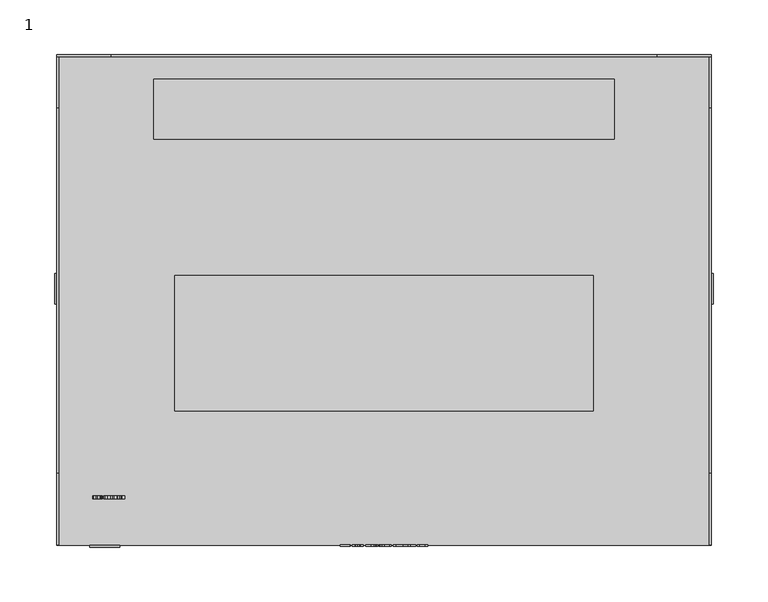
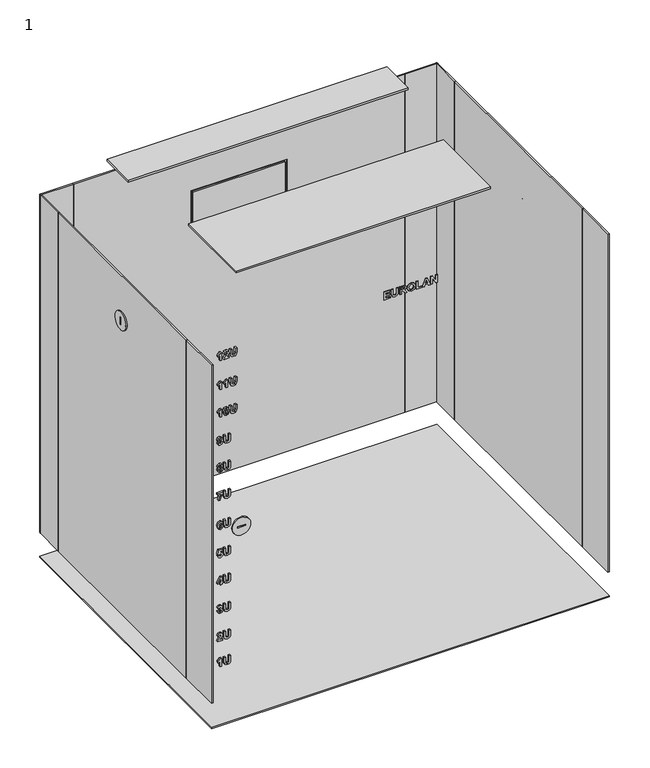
"""IFC4 building model written with IfcOpenShell, lengths in millimetres: proxy geometry, 1 : 12U 450мм металлическая дверь."""

from ifc_helpers import new_model, si_unit, point, frame, frame_2d, origin, origin_with_axes, place, context, project, spatial, polyline, circle_curve, trimmed, segment, composite_curve, outline, extrude, source, transform, mapped, element, save


def proxy_1_ad02ab2c(model_context):
    return source(origin(), model_context, "Body", "SweptSolid", [
        extrude(outline(polyline([(593.0, -40.3245382), (593.0, -30.9964522), (595.1376864, -30.9964522), (595.1376864, -37.9925167), (598.2470483, -37.9925167), (598.2470483, -31.5794576), (600.3847347, -31.5794576), (600.3847347, -37.9925167), (603.1054264, -37.9925167), (603.1054264, -31.1907874), (605.2431128, -31.1907874), (605.2431128, -40.3245382), (593.0, -40.3245382)])), frame((0.0, -226.0, 0.0), z_axis=(0.0, 1.0, 0.0), x_axis=(0.0, 0.0, 1.0)), (0.0, 0.0, 1.0), 1.0),
        extrude(outline(polyline([(605.2431128, -29.053101), (598.7207402, -29.053101), (595.6174512, -28.8071456), (594.2601418, -28.1026808), (593.2095176, -26.6482039), (592.8056649, -23.9487675), (593.1761162, -21.5575346), (594.173602, -20.0954664), (595.7085458, -19.3454543), (598.8209443, -19.1420097), (605.2431128, -19.1420097), (605.2431128, -21.4740312), (598.4960402, -21.4740312), (596.4236383, -21.5924541), (595.3714958, -22.2923642), (594.9433512, -24.0216432), (595.3973059, -25.7979877), (596.5982363, -26.6208755), (598.6387551, -26.7210795), (605.2431128, -26.7210795), (605.2431128, -29.053101)])), frame((0.0, -226.0, 0.0), z_axis=(0.0, 1.0, 0.0), x_axis=(0.0, 0.0, 1.0)), (0.0, 0.0, 1.0), 1.0),
        extrude(outline(polyline([(593.0, -16.8099882), (593.0, -14.4779667), (598.0527132, -13.9435451), (597.9251808, -12.6120459), (597.4560437, -11.8164865), (595.7966039, -10.4242575), (593.0, -8.6509495), (593.0, -5.9272213), (595.3745323, -7.424209), (597.3512849, -8.7238252), (598.3715443, -9.9475291), (599.5071902, -7.6625732), (601.7936644, -6.8988969), (603.7339791, -7.4272455), (604.9121358, -8.8361752), (605.2431128, -11.6601074), (605.2431128, -16.8099882), (593.0, -16.8099882)]), holes=[polyline([(600.1903996, -14.4779667), (603.1054264, -14.4779667), (603.1054264, -12.4495939), (603.0659521, -10.5548264), (602.6150339, -9.5770778), (601.6782779, -9.2309184), (600.817434, -9.4935744), (600.3315962, -10.2223312), (600.1903996, -12.5558709), (600.1903996, -14.4779667)])]), frame((0.0, -226.0, 0.0), z_axis=(0.0, 1.0, 0.0), x_axis=(0.0, 0.0, 1.0)), (0.0, 0.0, 1.0), 1.0),
        extrude(outline(polyline([(599.0456442, -4.9555457), (594.4681411, -3.3735363), (592.8056649, 0.8896905), (594.4757323, 5.1225524), (599.106374, 6.7045618), (603.7628257, 5.1104065), (605.4374479, 0.8593256), (604.9546466, -1.7338337), (603.8539203, -3.2869964), (602.1792981, -4.4059416), (599.0456442, -4.9555457)]), holes=[polyline([(599.1306659, -2.6235242), (602.2612832, -1.6579215), (603.2997616, 0.886654), (602.2734292, 3.4190836), (599.1640672, 4.3725403), (595.9985302, 3.3932735), (594.9433512, 0.886654), (596.0061214, -1.6321114), (599.1306659, -2.6235242)])]), frame((0.0, -226.0, 0.0), z_axis=(0.0, 1.0, 0.0), x_axis=(0.0, 0.0, 1.0)), (0.0, 0.0, 1.0), 1.0),
        extrude(outline(polyline([(593.0, 8.647913), (593.0, 17.1986585), (595.1376864, 17.1986585), (595.1376864, 10.9799345), (605.2431128, 10.9799345), (605.2431128, 8.647913), (593.0, 8.647913)])), frame((0.0, -226.0, 0.0), z_axis=(0.0, 1.0, 0.0), x_axis=(0.0, 0.0, 1.0)), (0.0, 0.0, 1.0), 1.0),
        extrude(outline(polyline([(593.0, 29.2474361), (605.2431128, 24.7352175), (605.2431128, 22.2513717), (593.0, 17.7816638), (593.0, 20.2655096), (595.7206917, 21.2128934), (595.7206917, 25.837462), (593.0, 26.7969917), (593.0, 29.2474361)]), holes=[polyline([(597.8583781, 25.0904864), (597.8583781, 21.959869), (602.3280859, 23.51455), (597.8583781, 25.0904864)])]), frame((0.0, -226.0, 0.0), z_axis=(0.0, 1.0, 0.0), x_axis=(0.0, 0.0, 1.0)), (0.0, 0.0, 1.0), 1.0),
        extrude(outline(polyline([(593.0, 30.4134469), (593.0, 32.7454684), (601.1195644, 32.7454684), (593.0, 37.8042546), (593.0, 40.3245382), (605.2431128, 40.3245382), (605.2431128, 37.9925167), (597.002089, 37.9925167), (605.2431128, 32.8578184), (605.2431128, 30.4134469), (593.0, 30.4134469)])), frame((0.0, -226.0, 0.0), z_axis=(0.0, 1.0, 0.0), x_axis=(0.0, 0.0, 1.0)), (0.0, 0.0, 1.0), 1.0),
        extrude(outline(composite_curve([segment(trimmed(circle_curve(frame_2d((9.997621, 508.4611412)), 14.0), [point((-4.002379, 508.4611412))], [point((23.997621, 508.4611412))], False, "CARTESIAN"), True, "CONTINUOUS"), segment(trimmed(circle_curve(frame_2d((9.997621, 508.4611412)), 14.0), [point((23.997621, 508.4611412))], [point((-4.002379, 508.4611412))], False, "CARTESIAN"), True, "CONTINUOUS")], self_intersect=False), holes=[polyline([(11.0, 514.5), (9.0, 514.5), (9.0, 502.5), (11.0, 502.5), (11.0, 514.5)])]), frame((-302.0, 0.0, 0.0), z_axis=(1.0, 0.0, 0.0), x_axis=(0.0, 1.0, 0.0)), (0.0, 0.0, 1.0), 2.0),
        extrude(outline(composite_curve([segment(trimmed(circle_curve(frame_2d((9.997621, 508.4611412)), 14.0), [point((-4.002379, 508.4611412))], [point((23.997621, 508.4611412))], False, "CARTESIAN"), True, "CONTINUOUS"), segment(trimmed(circle_curve(frame_2d((9.997621, 508.4611412)), 14.0), [point((23.997621, 508.4611412))], [point((-4.002379, 508.4611412))], False, "CARTESIAN"), True, "CONTINUOUS")], self_intersect=False), holes=[polyline([(11.0, 514.5), (9.0, 514.5), (9.0, 502.5), (11.0, 502.5), (11.0, 514.5)])]), frame((300.0, 0.0, 0.0), z_axis=(1.0, 0.0, 0.0), x_axis=(0.0, 1.0, 0.0)), (0.0, 0.0, 1.0), 2.0),
        extrude(outline(composite_curve([segment(trimmed(circle_curve(frame_2d((308.5, -256.0)), 13.7647373), [point((308.5, -242.2352627))], [point((308.5, -269.7647373))], False, "CARTESIAN"), True, "CONTINUOUS"), segment(trimmed(circle_curve(frame_2d((308.5, -256.0)), 13.7647373), [point((308.5, -269.7647373))], [point((308.5, -242.2352627))], False, "CARTESIAN"), True, "CONTINUOUS")], self_intersect=False), holes=[polyline([(309.5, -250.0), (307.5, -250.0), (307.5, -262.0), (309.5, -262.0), (309.5, -250.0)])]), frame((0.0, -227.0, 0.0), z_axis=(0.0, 1.0, 0.0), x_axis=(0.0, 0.0, 1.0)), (0.0, 0.0, 1.0), 2.0),
        extrude(outline(polyline([(300.0, 225.0), (300.0, -225.0), (-300.0, -225.0), (-300.0, 225.0), (300.0, 225.0)])), origin_with_axes(), (0.0, 0.0, 1.0), 2.0),
        extrude(outline(polyline([(211.0, 202.5), (211.0, 147.5), (-211.0, 147.5), (-211.0, 202.5), (211.0, 202.5)])), frame((0.0, 0.0, 613.9795778), z_axis=(0.0, 0.0, 1.0), x_axis=(1.0, 0.0, 0.0)), (0.0, 0.0, 1.0), 3.0204222),
        extrude(outline(polyline([(192.0, 22.0), (192.0, -102.0), (-192.0, -102.0), (-192.0, 22.0), (192.0, 22.0)])), frame((0.0, 0.0, 613.9795778), z_axis=(0.0, 0.0, 1.0), x_axis=(1.0, 0.0, 0.0)), (0.0, 0.0, 1.0), 3.0204222),
        extrude(outline(polyline([(-69.5, 225.0), (69.5, 225.0), (69.5, 223.0), (-69.5, 223.0), (-69.5, 225.0)])), frame((0.0, 0.0, 454.0), z_axis=(0.0, 0.0, 1.0), x_axis=(1.0, 0.0, 0.0)), (0.0, 0.0, 1.0), 49.0),
        extrude(outline(polyline([(579.0, -250.0), (40.0, -250.0), (40.0, 250.0), (579.0, 250.0), (579.0, -250.0)]), holes=[polyline([(506.0, -72.5), (506.0, 72.5), (451.0, 72.5), (451.0, -72.5), (506.0, -72.5)])]), frame((0.0, 223.0, 0.0), z_axis=(0.0, 1.0, 0.0), x_axis=(0.0, 0.0, 1.0)), (0.0, 0.0, 1.0), 2.0),
        extrude(outline(polyline([(-300.0, 225.0), (-250.0, 225.0), (-250.0, 223.0), (-300.0, 223.0), (-300.0, 225.0)])), frame((0.0, 0.0, 40.0), z_axis=(0.0, 0.0, 1.0), x_axis=(1.0, 0.0, 0.0)), (0.0, 0.0, 1.0), 539.0),
        extrude(outline(polyline([(250.0, 225.0), (300.0, 225.0), (300.0, 223.0), (250.0, 223.0), (250.0, 225.0)])), frame((0.0, 0.0, 40.0), z_axis=(0.0, 0.0, 1.0), x_axis=(1.0, 0.0, 0.0)), (0.0, 0.0, 1.0), 539.0),
        extrude(outline(polyline([(-298.0, 175.8155315), (-298.0, -158.7095641), (-300.0, -158.7095641), (-300.0, 175.8155315), (-298.0, 175.8155315)])), frame((0.0, 0.0, 40.0), z_axis=(0.0, 0.0, 1.0), x_axis=(1.0, 0.0, 0.0)), (0.0, 0.0, 1.0), 539.0),
        extrude(outline(polyline([(-298.0, -158.7095641), (-298.0, -225.0), (-300.0, -225.0), (-300.0, -158.7095641), (-298.0, -158.7095641)])), frame((0.0, 0.0, 40.0), z_axis=(0.0, 0.0, 1.0), x_axis=(1.0, 0.0, 0.0)), (0.0, 0.0, 1.0), 539.0),
        extrude(outline(polyline([(-298.0, 225.0), (-298.0, 175.8155315), (-300.0, 175.8155315), (-300.0, 225.0), (-298.0, 225.0)])), frame((0.0, 0.0, 40.0), z_axis=(0.0, 0.0, 1.0), x_axis=(1.0, 0.0, 0.0)), (0.0, 0.0, 1.0), 539.0),
        extrude(outline(polyline([(300.0, 175.8155315), (300.0, -158.7095641), (298.0, -158.7095641), (298.0, 175.8155315), (300.0, 175.8155315)])), frame((0.0, 0.0, 40.0), z_axis=(0.0, 0.0, 1.0), x_axis=(1.0, 0.0, 0.0)), (0.0, 0.0, 1.0), 539.0),
        extrude(outline(polyline([(300.0, 225.0), (300.0, 175.8155315), (298.0, 175.8155315), (298.0, 225.0), (300.0, 225.0)])), frame((0.0, 0.0, 40.0), z_axis=(0.0, 0.0, 1.0), x_axis=(1.0, 0.0, 0.0)), (0.0, 0.0, 1.0), 539.0),
        extrude(outline(polyline([(300.0, -158.7095641), (300.0, -225.0), (298.0, -225.0), (298.0, -158.7095641), (300.0, -158.7095641)])), frame((0.0, 0.0, 40.0), z_axis=(0.0, 0.0, 1.0), x_axis=(1.0, 0.0, 0.0)), (0.0, 0.0, 1.0), 539.0),
        extrude(outline(polyline([(547.6333267, -260.6030776), (559.8764395, -260.6030776), (559.8764395, -262.4614073), (557.9103146, -263.9037383), (556.7670775, -265.850126), (554.435056, -265.850126), (556.3844802, -262.9350991), (547.6333267, -262.9350991), (547.6333267, -260.6030776)])), frame((0.0, -182.6777479, 0.0), z_axis=(0.0, 1.0, 0.0), x_axis=(0.0, 0.0, 1.0)), (0.0, 0.0, 1.0), 3.0),
        extrude(outline(polyline([(549.9653481, -249.3316405), (550.6030103, -253.2395983), (551.9299548, -251.9080991), (553.4603439, -250.4581769), (554.9937695, -249.6018877), (556.5363045, -249.3316405), (558.918428, -250.3184985), (559.8764395, -253.0331173), (559.0216686, -255.6596779), (556.202291, -256.9107103), (555.989737, -254.5786888), (557.3333822, -254.1292888), (557.7387531, -253.0847375), (557.3273092, -252.0417045), (556.1476343, -251.6636619), (554.7447776, -252.1130619), (552.7892804, -253.9167348), (549.9213191, -256.3611063), (547.6333267, -257.1050454), (547.6333267, -249.3316405), (549.9653481, -249.3316405)])), frame((0.0, -182.6777479, 0.0), z_axis=(0.0, 1.0, 0.0), x_axis=(0.0, 0.0, 1.0)), (0.0, 0.0, 1.0), 3.0),
        extrude(outline(polyline([(559.8764395, -247.3882892), (553.3540669, -247.3882892), (550.2507779, -247.1423338), (548.8934685, -246.437869), (547.8428442, -244.9833921), (547.4389915, -242.2839557), (547.8094429, -239.8927228), (548.8069286, -238.4306546), (550.3418725, -237.6806425), (553.4542709, -237.4771979), (559.8764395, -237.4771979), (559.8764395, -239.8092194), (553.1293669, -239.8092194), (551.056965, -239.9276424), (550.0048225, -240.6275524), (549.5766779, -242.3568314), (550.0306326, -244.1331759), (551.2315629, -244.9560637), (553.2720817, -245.0562677), (559.8764395, -245.0562677), (559.8764395, -247.3882892)])), frame((0.0, -182.6777479, 0.0), z_axis=(0.0, 1.0, 0.0), x_axis=(0.0, 0.0, 1.0)), (0.0, 0.0, 1.0), 3.0),
        extrude(outline(polyline([(501.1786301, -260.6030776), (513.4217429, -260.6030776), (513.4217429, -262.4614073), (511.455618, -263.9037383), (510.3123809, -265.850126), (507.9803594, -265.850126), (509.9297836, -262.9350991), (501.1786301, -262.9350991), (501.1786301, -260.6030776)])), frame((0.0, -182.6777479, 0.0), z_axis=(0.0, 1.0, 0.0), x_axis=(0.0, 0.0, 1.0)), (0.0, 0.0, 1.0), 3.0),
        extrude(outline(polyline([(501.1786301, -251.2749917), (513.4217429, -251.2749917), (513.4217429, -253.1333213), (511.455618, -254.5756523), (510.3123809, -256.52204), (507.9803594, -256.52204), (509.9297836, -253.6070132), (501.1786301, -253.6070132), (501.1786301, -251.2749917)])), frame((0.0, -182.6777479, 0.0), z_axis=(0.0, 1.0, 0.0), x_axis=(0.0, 0.0, 1.0)), (0.0, 0.0, 1.0), 3.0),
        extrude(outline(polyline([(513.4217429, -247.3882892), (506.8993703, -247.3882892), (503.7960813, -247.1423338), (502.4387719, -246.437869), (501.3881476, -244.9833921), (500.9842949, -242.2839557), (501.3547463, -239.8927228), (502.352232, -238.4306546), (503.8871758, -237.6806425), (506.9995743, -237.4771979), (513.4217429, -237.4771979), (513.4217429, -239.8092194), (506.6746703, -239.8092194), (504.6022684, -239.9276424), (503.5501259, -240.6275524), (503.1219813, -242.3568314), (503.575936, -244.1331759), (504.7768663, -244.9560637), (506.8173851, -245.0562677), (513.4217429, -245.0562677), (513.4217429, -247.3882892)])), frame((0.0, -182.6777479, 0.0), z_axis=(0.0, 1.0, 0.0), x_axis=(0.0, 0.0, 1.0)), (0.0, 0.0, 1.0), 3.0),
        extrude(outline(polyline([(457.3261317, -260.6030776), (469.5692445, -260.6030776), (469.5692445, -262.4614073), (467.6031196, -263.9037383), (466.4598825, -265.850126), (464.127861, -265.850126), (466.0772852, -262.9350991), (457.3261317, -262.9350991), (457.3261317, -260.6030776)])), frame((0.0, -182.6777479, 0.0), z_axis=(0.0, 1.0, 0.0), x_axis=(0.0, 0.0, 1.0)), (0.0, 0.0, 1.0), 3.0),
        extrude(outline(polyline([(469.5692445, -253.2183429), (468.3242851, -255.9299252), (463.3717759, -257.1050454), (458.4982154, -256.034684), (457.1317966, -253.2183429), (458.3767559, -250.5067607), (463.347484, -249.3316405), (468.3060662, -250.5006877), (469.5692445, -253.2183429)]), holes=[polyline([(467.4315581, -253.2183429), (467.174975, -252.4455572), (466.1531974, -251.8853254), (463.347484, -251.6636619), (460.4476396, -251.9126538), (459.526066, -252.4410024), (459.2694829, -253.2183429), (459.5230295, -253.9911287), (460.5402524, -254.5513604), (463.347484, -254.7730239), (466.2534014, -254.524032), (467.174975, -253.9956834), (467.4315581, -253.2183429)])]), frame((0.0, -182.6777479, 0.0), z_axis=(0.0, 1.0, 0.0), x_axis=(0.0, 0.0, 1.0)), (0.0, 0.0, 1.0), 3.0),
        extrude(outline(polyline([(469.5692445, -247.3882892), (463.0468719, -247.3882892), (459.9435829, -247.1423338), (458.5862735, -246.437869), (457.5356492, -244.9833921), (457.1317966, -242.2839557), (457.5022479, -239.8927228), (458.4997336, -238.4306546), (460.0346775, -237.6806425), (463.1470759, -237.4771979), (469.5692445, -237.4771979), (469.5692445, -239.8092194), (462.8221719, -239.8092194), (460.74977, -239.9276424), (459.6976275, -240.6275524), (459.2694829, -242.3568314), (459.7234376, -244.1331759), (460.924368, -244.9560637), (462.9648868, -245.0562677), (469.5692445, -245.0562677), (469.5692445, -247.3882892)])), frame((0.0, -182.6777479, 0.0), z_axis=(0.0, 1.0, 0.0), x_axis=(0.0, 0.0, 1.0)), (0.0, 0.0, 1.0), 3.0),
        extrude(outline(polyline([(416.2414631, -266.2387962), (413.8062011, -265.1547706), (412.9924228, -262.9381356), (414.4696734, -259.8469925), (419.2870589, -258.6597264), (423.9981674, -259.7953723), (425.4298707, -262.7012897), (424.3169985, -265.3809888), (421.3852709, -266.4331314), (418.550711, -265.4083172), (417.4621306, -262.971537), (418.476317, -260.8065222), (415.7753625, -261.4290019), (415.1301091, -262.6071586), (415.4641226, -263.4922944), (416.490455, -263.9067747), (416.2414631, -266.2387962)]), holes=[polyline([(421.3306142, -260.9917479), (420.0385892, -261.4365931), (419.599817, -262.5312464), (420.0568082, -263.6517099), (421.4885115, -264.1011099), (422.8701127, -263.6881477), (423.2921843, -262.6496694), (422.7774999, -261.4927681), (421.3306142, -260.9917479)])]), frame((0.0, -182.6777479, 0.0), z_axis=(0.0, 1.0, 0.0), x_axis=(0.0, 0.0, 1.0)), (0.0, 0.0, 1.0), 3.0),
        extrude(outline(polyline([(425.4298707, -256.7163752), (418.9074981, -256.7163752), (415.8042091, -256.4704198), (414.4468997, -255.7659549), (413.3962754, -254.311478), (412.9924228, -251.6120417), (413.3628741, -249.2208087), (414.3603599, -247.7587405), (415.8953037, -247.0087284), (419.0077021, -246.8052838), (425.4298707, -246.8052838), (425.4298707, -249.1373053), (418.6827981, -249.1373053), (416.6103962, -249.2557283), (415.5582537, -249.9556384), (415.1301091, -251.6849173), (415.5840638, -253.4612618), (416.7849942, -254.2841496), (418.825513, -254.3843537), (425.4298707, -254.3843537), (425.4298707, -256.7163752)])), frame((0.0, -182.6777479, 0.0), z_axis=(0.0, 1.0, 0.0), x_axis=(0.0, 0.0, 1.0)), (0.0, 0.0, 1.0), 3.0),
        extrude(outline(polyline([(376.4962498, -264.3865396), (375.2254803, -265.9397023), (373.4172527, -266.4331314), (370.6024299, -265.1669166), (369.7339948, -262.4826627), (370.784619, -259.7042777), (373.5174567, -258.6597264), (375.3120201, -259.1865568), (376.4962498, -260.7245371), (377.508918, -259.3444541), (379.0226064, -258.8540615), (381.280234, -259.8227007), (382.1714427, -262.5464289), (381.280234, -265.2777483), (379.0226064, -266.2387962), (377.5499105, -265.7985057), (376.4962498, -264.3865396)]), holes=[polyline([(378.8798915, -263.9067747), (380.000355, -263.5332869), (380.4224266, -262.5312464), (380.0033915, -261.5550161), (378.889001, -261.186083), (377.7320997, -261.5595708), (377.3130646, -262.5555383), (377.727545, -263.5378417), (378.8798915, -263.9067747)]), polyline([(373.6146243, -264.1011099), (374.94916, -263.7169943), (375.5640485, -262.5494654), (375.0220357, -261.4320384), (373.5872959, -260.9917479), (372.0250237, -261.4244472), (371.4830109, -262.5191005), (372.0462791, -263.6486734), (373.6146243, -264.1011099)])]), frame((0.0, -182.6777479, 0.0), z_axis=(0.0, 1.0, 0.0), x_axis=(0.0, 0.0, 1.0)), (0.0, 0.0, 1.0), 3.0),
        extrude(outline(polyline([(382.1714427, -256.7163752), (375.6490701, -256.7163752), (372.5457811, -256.4704198), (371.1884717, -255.7659549), (370.1378475, -254.311478), (369.7339948, -251.6120417), (370.1044461, -249.2208087), (371.1019319, -247.7587405), (372.6368757, -247.0087284), (375.7492742, -246.8052838), (382.1714427, -246.8052838), (382.1714427, -249.1373053), (375.4243701, -249.1373053), (373.3519682, -249.2557283), (372.2998257, -249.9556384), (371.8716811, -251.6849173), (372.3256358, -253.4612618), (373.5265662, -254.2841496), (375.567085, -254.3843537), (382.1714427, -254.3843537), (382.1714427, -256.7163752)])), frame((0.0, -182.6777479, 0.0), z_axis=(0.0, 1.0, 0.0), x_axis=(0.0, 0.0, 1.0)), (0.0, 0.0, 1.0), 3.0),
        extrude(outline(polyline([(334.6450861, -266.4331314), (334.6450861, -261.3257614), (330.0129262, -264.008497), (324.9283299, -265.0727855), (324.9283299, -262.740764), (328.5812229, -262.2154519), (332.440597, -260.6622891), (335.2280915, -258.6597264), (336.9771076, -258.6597264), (336.9771076, -266.4331314), (334.6450861, -266.4331314)])), frame((0.0, -182.6777479, 0.0), z_axis=(0.0, 1.0, 0.0), x_axis=(0.0, 0.0, 1.0)), (0.0, 0.0, 1.0), 3.0),
        extrude(outline(polyline([(337.1714427, -256.7163752), (330.6490701, -256.7163752), (327.5457811, -256.4704198), (326.1884717, -255.7659549), (325.1378475, -254.311478), (324.7339948, -251.6120417), (325.1044461, -249.2208087), (326.1019319, -247.7587405), (327.6368757, -247.0087284), (330.7492742, -246.8052838), (337.1714427, -246.8052838), (337.1714427, -249.1373053), (330.4243701, -249.1373053), (328.3519682, -249.2557283), (327.2998257, -249.9556384), (326.8716811, -251.6849173), (327.3256358, -253.4612618), (328.5265662, -254.2841496), (330.567085, -254.3843537), (337.1714427, -254.3843537), (337.1714427, -256.7163752)])), frame((0.0, -182.6777479, 0.0), z_axis=(0.0, 1.0, 0.0), x_axis=(0.0, 0.0, 1.0)), (0.0, 0.0, 1.0), 3.0),
        extrude(outline(polyline([(287.6111434, -258.8540615), (290.0281866, -259.9654155), (290.8601838, -262.1668681), (289.381415, -265.2473834), (284.5534017, -266.4331314), (279.8559574, -265.2974855), (278.4227359, -262.4006775), (279.5325716, -259.7073142), (282.4764451, -258.6597264), (285.2973409, -259.6845405), (286.390476, -262.1486492), (285.3671801, -264.2802626), (288.0772441, -263.6638558), (288.7224974, -262.4674802), (288.3900022, -261.5990451), (287.3621516, -261.186083), (287.6111434, -258.8540615)]), holes=[polyline([(282.5280654, -264.1011099), (283.8155356, -263.6532281), (284.2527896, -262.5585748), (283.7957984, -261.4396296), (282.3549856, -260.9917479), (280.9794573, -261.4077465), (280.5604222, -262.4462248), (281.0720702, -263.5970531), (282.5280654, -264.1011099)])]), frame((0.0, -182.6777479, 0.0), z_axis=(0.0, 1.0, 0.0), x_axis=(0.0, 0.0, 1.0)), (0.0, 0.0, 1.0), 3.0),
        extrude(outline(polyline([(290.8601838, -256.7163752), (284.3378112, -256.7163752), (281.2345222, -256.4704198), (279.8772128, -255.7659549), (278.8265886, -254.311478), (278.4227359, -251.6120417), (278.7931872, -249.2208087), (279.790673, -247.7587405), (281.3256168, -247.0087284), (284.4380153, -246.8052838), (290.8601838, -246.8052838), (290.8601838, -249.1373053), (284.1131112, -249.1373053), (282.0407093, -249.2557283), (280.9885668, -249.9556384), (280.5604222, -251.6849173), (281.0143769, -253.4612618), (282.2153073, -254.2841496), (284.2558261, -254.3843537), (290.8601838, -254.3843537), (290.8601838, -256.7163752)])), frame((0.0, -182.6777479, 0.0), z_axis=(0.0, 1.0, 0.0), x_axis=(0.0, 0.0, 1.0)), (0.0, 0.0, 1.0), 3.0),
        extrude(outline(polyline([(237.3503584, -266.4331314), (234.6964693, -265.1957632), (233.7096113, -262.522137), (235.2825112, -259.312571), (237.9029989, -258.4653913), (240.7679237, -259.4826142), (241.8716865, -261.960387), (241.3949581, -263.4634477), (243.6207026, -262.9927924), (243.6207026, -259.0483966), (245.9527241, -259.0483966), (245.9527241, -264.8784504), (239.0629366, -266.2387962), (238.7623245, -264.2164963), (239.7340001, -262.509991), (239.2633447, -261.2726229), (237.8513786, -260.7974128), (236.3467996, -261.3090607), (235.8472976, -262.5585748), (236.317953, -263.7002937), (237.5963138, -264.295445), (237.3503584, -266.4331314)])), frame((0.0, -182.6777479, 0.0), z_axis=(0.0, 1.0, 0.0), x_axis=(0.0, 0.0, 1.0)), (0.0, 0.0, 1.0), 3.0),
        extrude(outline(polyline([(246.1470592, -256.7163752), (239.6246866, -256.7163752), (236.5213976, -256.4704198), (235.1640882, -255.7659549), (234.113464, -254.311478), (233.7096113, -251.6120417), (234.0800626, -249.2208087), (235.0775484, -247.7587405), (236.6124922, -247.0087284), (239.7248907, -246.8052838), (246.1470592, -246.8052838), (246.1470592, -249.1373053), (239.3999866, -249.1373053), (237.3275847, -249.2557283), (236.2754422, -249.9556384), (235.8472976, -251.6849173), (236.3012523, -253.4612618), (237.5021827, -254.2841496), (239.5427015, -254.3843537), (246.1470592, -254.3843537), (246.1470592, -256.7163752)])), frame((0.0, -182.6777479, 0.0), z_axis=(0.0, 1.0, 0.0), x_axis=(0.0, 0.0, 1.0)), (0.0, 0.0, 1.0), 3.0),
        extrude(outline(polyline([(189.9283299, -262.1577586), (189.9283299, -259.8257371), (192.4546865, -259.8257371), (192.4546865, -258.2710562), (194.3980377, -258.2710562), (194.3980377, -259.8257371), (201.9771076, -259.8257371), (201.9771076, -261.848037), (194.3889283, -266.8218016), (192.4546865, -266.8218016), (192.4546865, -262.1577586), (189.9283299, -262.1577586)]), holes=[polyline([(194.3980377, -262.1577586), (194.3980377, -264.7630639), (198.3758348, -262.1577586), (194.3980377, -262.1577586)])]), frame((0.0, -182.6777479, 0.0), z_axis=(0.0, 1.0, 0.0), x_axis=(0.0, 0.0, 1.0)), (0.0, 0.0, 1.0), 3.0),
        extrude(outline(polyline([(202.1714427, -256.7163752), (195.6490701, -256.7163752), (192.5457811, -256.4704198), (191.1884717, -255.7659549), (190.1378475, -254.311478), (189.7339948, -251.6120417), (190.1044461, -249.2208087), (191.1019319, -247.7587405), (192.6368757, -247.0087284), (195.7492742, -246.8052838), (202.1714427, -246.8052838), (202.1714427, -249.1373053), (195.4243701, -249.1373053), (193.3519682, -249.2557283), (192.2998257, -249.9556384), (191.8716811, -251.6849173), (192.3256358, -253.4612618), (193.5265662, -254.2841496), (195.567085, -254.3843537), (202.1714427, -254.3843537), (202.1714427, -256.7163752)])), frame((0.0, -182.6777479, 0.0), z_axis=(0.0, 1.0, 0.0), x_axis=(0.0, 0.0, 1.0)), (0.0, 0.0, 1.0), 3.0),
        extrude(outline(polyline([(148.35045, -266.4331314), (145.734517, -265.2200551), (144.7339948, -262.5859032), (145.859013, -259.7847446), (148.5781864, -258.6597264), (150.4562532, -259.294352), (151.4567755, -260.9887114), (154.0286794, -259.2427318), (156.0691982, -260.0565101), (157.1714427, -262.6739613), (156.773663, -264.3971673), (155.6820462, -265.5965794), (153.8282713, -266.2387962), (153.4790753, -263.9067747), (154.6374949, -263.4892579), (155.0337563, -262.6587789), (154.6921516, -261.8708107), (153.776651, -261.5747533), (152.6956619, -261.9710147), (152.3130646, -263.1203248), (150.3909688, -263.3237694), (150.5640485, -262.397641), (150.0812472, -261.4001553), (148.7725216, -260.9917479), (147.3863656, -261.4381114), (146.8716811, -262.5403559), (147.3210811, -263.5757977), (148.6206973, -264.1011099), (148.35045, -266.4331314)])), frame((0.0, -182.6777479, 0.0), z_axis=(0.0, 1.0, 0.0), x_axis=(0.0, 0.0, 1.0)), (0.0, 0.0, 1.0), 3.0),
        extrude(outline(polyline([(157.1714427, -256.7163752), (150.6490701, -256.7163752), (147.5457811, -256.4704198), (146.1884717, -255.7659549), (145.1378475, -254.311478), (144.7339948, -251.6120417), (145.1044461, -249.2208087), (146.1019319, -247.7587405), (147.6368757, -247.0087284), (150.7492742, -246.8052838), (157.1714427, -246.8052838), (157.1714427, -249.1373053), (150.4243701, -249.1373053), (148.3519682, -249.2557283), (147.2998257, -249.9556384), (146.8716811, -251.6849173), (147.3256358, -253.4612618), (148.5265662, -254.2841496), (150.567085, -254.3843537), (157.1714427, -254.3843537), (157.1714427, -256.7163752)])), frame((0.0, -182.6777479, 0.0), z_axis=(0.0, 1.0, 0.0), x_axis=(0.0, 0.0, 1.0)), (0.0, 0.0, 1.0), 3.0),
        extrude(outline(polyline([(103.3014708, -258.8246798), (103.9391329, -262.7326376), (105.2660774, -261.4011384), (106.7964665, -259.9512162), (108.3298921, -259.094927), (109.8724272, -258.8246798), (112.2545507, -259.8115378), (113.2125621, -262.5261566), (112.3577912, -265.1527172), (109.5384137, -266.4037496), (109.3258596, -264.0717281), (110.6695048, -263.6223281), (111.0748758, -262.5777768), (110.6634319, -261.5347438), (109.4837569, -261.1567012), (108.0809003, -261.6061012), (106.1254031, -263.4097741), (103.2574418, -265.8541456), (100.9694493, -266.5980847), (100.9694493, -258.8246798), (103.3014708, -258.8246798)])), frame((0.0, -182.6777479, 0.0), z_axis=(0.0, 1.0, 0.0), x_axis=(0.0, 0.0, 1.0)), (0.0, 0.0, 1.0), 3.0),
        extrude(outline(polyline([(113.2125621, -256.8813285), (106.6901895, -256.8813285), (103.5869005, -256.6353731), (102.2295911, -255.9309083), (101.1789669, -254.4764314), (100.7751142, -251.776995), (101.1455655, -249.3857621), (102.1430513, -247.9236939), (103.6779951, -247.1736818), (106.7903936, -246.9702372), (113.2125621, -246.9702372), (113.2125621, -249.3022587), (106.4654895, -249.3022587), (104.3930876, -249.4206817), (103.3409451, -250.1205917), (102.9128006, -251.8498707), (103.3667553, -253.6262152), (104.5676856, -254.449103), (106.6082044, -254.549307), (113.2125621, -254.549307), (113.2125621, -256.8813285)])), frame((0.0, -182.6777479, 0.0), z_axis=(0.0, 1.0, 0.0), x_axis=(0.0, 0.0, 1.0)), (0.0, 0.0, 1.0), 3.0),
        extrude(outline(polyline([(59.9283299, -260.6030776), (72.1714427, -260.6030776), (72.1714427, -262.4614073), (70.2053178, -263.9037383), (69.0620807, -265.850126), (66.7300592, -265.850126), (68.6794834, -262.9350991), (59.9283299, -262.9350991), (59.9283299, -260.6030776)])), frame((0.0, -182.6777479, 0.0), z_axis=(0.0, 1.0, 0.0), x_axis=(0.0, 0.0, 1.0)), (0.0, 0.0, 1.0), 3.0),
        extrude(outline(polyline([(72.1714427, -256.7163752), (65.6490701, -256.7163752), (62.5457811, -256.4704198), (61.1884717, -255.7659549), (60.1378475, -254.311478), (59.7339948, -251.6120417), (60.1044461, -249.2208087), (61.1019319, -247.7587405), (62.6368757, -247.0087284), (65.7492742, -246.8052838), (72.1714427, -246.8052838), (72.1714427, -249.1373053), (65.4243701, -249.1373053), (63.3519682, -249.2557283), (62.2998257, -249.9556384), (61.8716811, -251.6849173), (62.3256358, -253.4612618), (63.5265662, -254.2841496), (65.567085, -254.3843537), (72.1714427, -254.3843537), (72.1714427, -256.7163752)])), frame((0.0, -182.6777479, 0.0), z_axis=(0.0, 1.0, 0.0), x_axis=(0.0, 0.0, 1.0)), (0.0, 0.0, 1.0), 3.0),
    ])


if __name__ == "__main__":
    model = new_model("IFC4")
    model_context = context("Model", 3, world=origin())
    ifc_project = project(units=[si_unit("LENGTHUNIT", "METRE", prefix="MILLI")], contexts=[model_context])
    site = spatial("IfcSite", under=ifc_project)
    building = spatial("IfcBuilding", under=site)
    placement = place(None, origin())
    proxy_1_shape = proxy_1_ad02ab2c(model_context)
    element("IfcBuildingElementProxy", 1, Name="1 : 12U 450мм металлическая дверь", ObjectType="1 : 12U 450мм металлическая дверь", at=placement, inside=building, context=model_context, shape_type="MappedRepresentation", body=[
        mapped(proxy_1_shape, transform((0.0, 0.0, 0.0), x_axis=(1.0, 0.0, 0.0), y_axis=(0.0, 1.0, 0.0), z_axis=(0.0, 0.0, 1.0))),
    ])
    save(model, "model.ifc")
